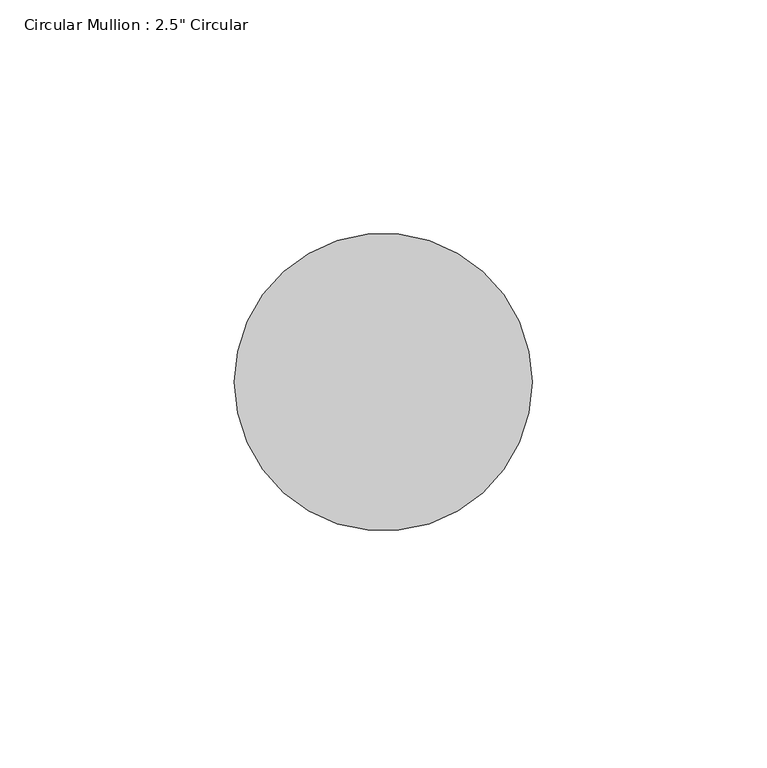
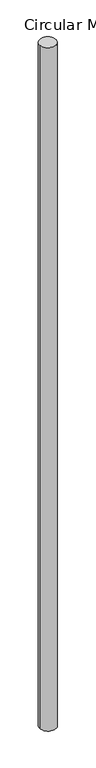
"""IFC4 building model written with IfcOpenShell, lengths in millimetres: member geometry."""

from ifc_helpers import new_model, si_unit, point, frame, origin, origin_2d, place, context, project, spatial, circle_curve, trimmed, segment, composite_curve, outline, extrude, source, transform, mapped, element, save


def member_b7ede9d4(model_context):
    return source(origin(), model_context, "Body", "SweptSolid", [
        extrude(outline(composite_curve([segment(trimmed(circle_curve(origin_2d(), 31.75), [point((31.75, 0.0))], [point((-31.75, 0.0))], False, "CARTESIAN"), True, "CONTINUOUS"), segment(trimmed(circle_curve(origin_2d(), 31.75), [point((-31.75, 0.0))], [point((31.75, 0.0))], False, "CARTESIAN"), True, "CONTINUOUS")], self_intersect=False)), frame((0.0, 0.0, -2787.268113), z_axis=(0.0, 0.0, 1.0), x_axis=(1.0, 0.0, 0.0)), (0.0, 0.0, 1.0), 2787.268113),
    ])


if __name__ == "__main__":
    model = new_model("IFC4")
    model_context = context("Model", 3, world=origin())
    ifc_project = project(units=[si_unit("LENGTHUNIT", "METRE", prefix="MILLI")], contexts=[model_context])
    site = spatial("IfcSite", under=ifc_project)
    building = spatial("IfcBuilding", under=site)
    placement = place(None, origin())
    member_shape = member_b7ede9d4(model_context)
    element("IfcMember", 1, ObjectType="Circular Mullion : 2.5\" Circular", at=placement, inside=building, context=model_context, shape_type="MappedRepresentation", body=[
        mapped(member_shape, transform((0.0, 0.0, 0.0), x_axis=(1.0, 0.0, 0.0), y_axis=(0.0, 1.0, 0.0), z_axis=(0.0, 0.0, 1.0))),
    ])
    save(model, "model.ifc")
